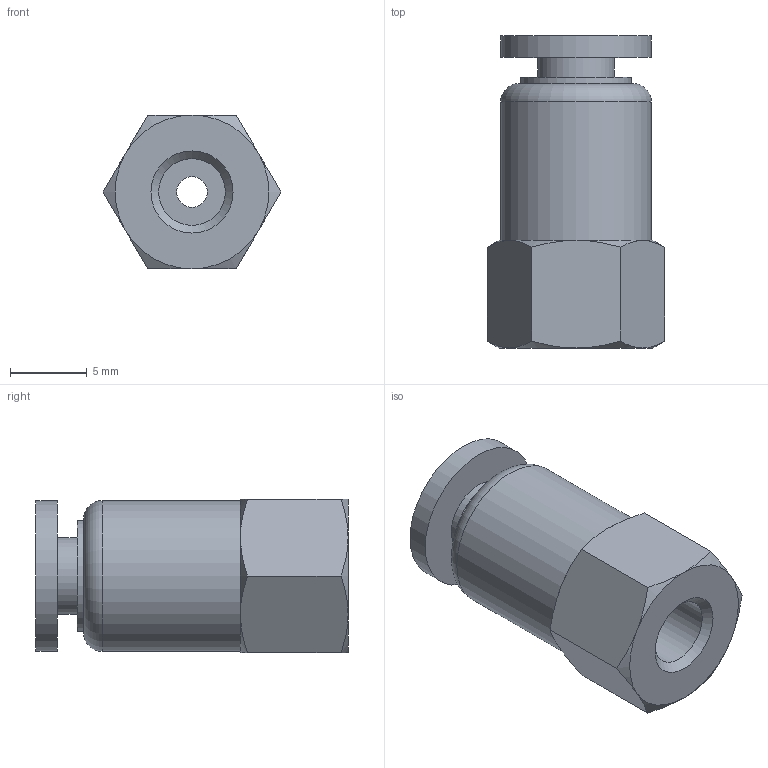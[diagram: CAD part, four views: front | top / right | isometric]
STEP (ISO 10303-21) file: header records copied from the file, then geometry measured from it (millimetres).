
FILE_DESCRIPTION(/* description */ (''),/* implementation_level */ '2;1');
FILE_NAME(/* name */ 'S:\_Tecnico\ArchivioUT\_Disegni3D ingombri\DISEGNI 3D per ingombri\RP\RP 52\RP52M504.stp',/* time_stamp */ '2019-07-29T17:01:42+02:00',/* author */ ('ufficiotecnico3'),/* organization */ (''),/* preprocessor_version */ 'ST-DEVELOPER v18',/* originating_system */ 'Autodesk Inventor 2020',/* authorisation */ '');
FILE_SCHEMA (('AUTOMOTIVE_DESIGN { 1 0 10303 214 3 1 1 }'));
Length unit declared in the file: millimetre
Products named in the file (1): RP52M504
Bounding box: 11.55 x 20.3 x 10 mm (x, y, z)
Volume: 1256.1 mm3; surface area: 1131.4 mm2
Topology: 1 solids, 1 shells, 35 faces, 83 edges, 56 vertices
Faces by surface type: plane 14, cone 13, cylinder 7, torus 1
Full cylindrical faces by diameter (mm): 2 x1, 4 x1, 4.334 x1, 5 x1, 7.2 x1, 9.8 x2
Entity records: 1059 total; most frequent: CARTESIAN_POINT 223, DIRECTION 176, ORIENTED_EDGE 166, EDGE_CURVE 83, AXIS2_PLACEMENT_3D 81, VERTEX_POINT 56, CIRCLE 45, EDGE_LOOP 43
